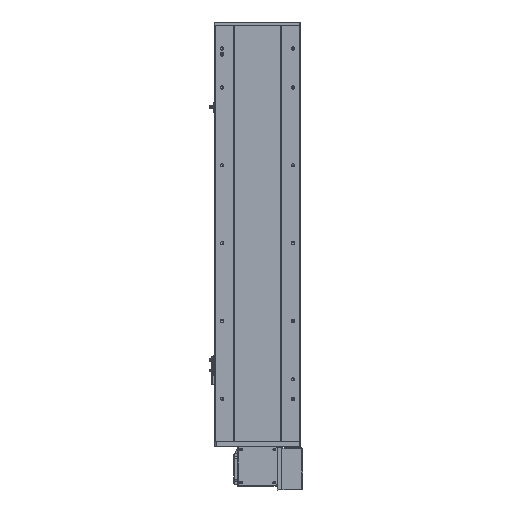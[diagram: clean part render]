
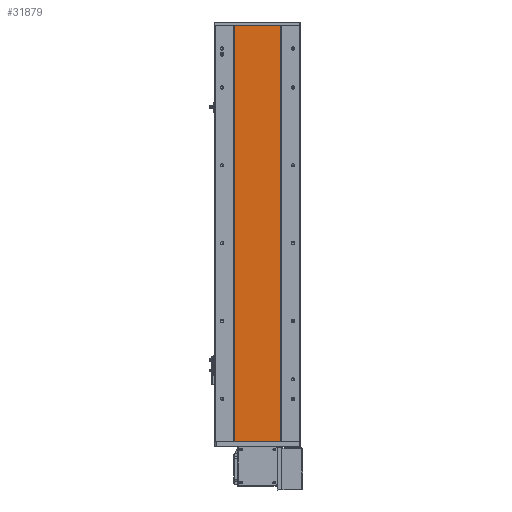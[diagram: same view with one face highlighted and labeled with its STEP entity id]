
A CAD part, front view. The second image highlights one B-rep face of the part: STEP entity #31879.
In plain terms, the highlighted planar face has unit normal (0, -1, 0).
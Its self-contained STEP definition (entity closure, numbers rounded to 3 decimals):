
#1106 = DIRECTION ( 'NONE',  ( 0., 0., -1. ) ) ;
#5656 = EDGE_CURVE ( 'NONE', #23481, #6822, #7207, .T. ) ;
#5662 = ORIENTED_EDGE ( 'NONE', *, *, #32347, .F. ) ;
#6822 = VERTEX_POINT ( 'NONE', #42024 ) ;
#6893 = VECTOR ( 'NONE', #41767, 1000. ) ;
#7207 = LINE ( 'NONE', #48755, #6893 ) ;
#7305 = DIRECTION ( 'NONE',  ( 1., 0., 0. ) ) ;
#10314 = CARTESIAN_POINT ( 'NONE',  ( 0., 155.016, 1069. ) ) ;
#13703 = EDGE_CURVE ( 'NONE', #19620, #42009, #34098, .T. ) ;
#14622 = LINE ( 'NONE', #29873, #14800 ) ;
#14800 = VECTOR ( 'NONE', #22661, 1000. ) ;
#17588 = CARTESIAN_POINT ( 'NONE',  ( 432.408, 155.016, 1069. ) ) ;
#19620 = VERTEX_POINT ( 'NONE', #17588 ) ;
#22661 = DIRECTION ( 'NONE',  ( 0., 0., -1. ) ) ;
#22958 = PLANE ( 'NONE',  #29128 ) ;
#22967 = ORIENTED_EDGE ( 'NONE', *, *, #5656, .T. ) ;
#23381 = EDGE_LOOP ( 'NONE', ( #22967, #5662, #30526, #47892 ) ) ;
#23481 = VERTEX_POINT ( 'NONE', #29756 ) ;
#29128 = AXIS2_PLACEMENT_3D ( 'NONE', #41717, #41476, #37472 ) ;
#29331 = LINE ( 'NONE', #42958, #40750 ) ;
#29756 = CARTESIAN_POINT ( 'NONE',  ( 432.408, 155.016, 0. ) ) ;
#29873 = CARTESIAN_POINT ( 'NONE',  ( 551.58, 155.016, 1069. ) ) ;
#30526 = ORIENTED_EDGE ( 'NONE', *, *, #13703, .F. ) ;
#31879 = ADVANCED_FACE ( 'NONE', ( #42200 ), #22958, .F. ) ;
#32347 = EDGE_CURVE ( 'NONE', #42009, #6822, #14622, .T. ) ;
#34098 = LINE ( 'NONE', #10314, #43199 ) ;
#37472 = DIRECTION ( 'NONE',  ( 0., 0., 1. ) ) ;
#38929 = EDGE_CURVE ( 'NONE', #19620, #23481, #29331, .T. ) ;
#40750 = VECTOR ( 'NONE', #1106, 1000. ) ;
#41476 = DIRECTION ( 'NONE',  ( 0., 1., 0. ) ) ;
#41717 = CARTESIAN_POINT ( 'NONE',  ( 0., 155.016, 1069. ) ) ;
#41767 = DIRECTION ( 'NONE',  ( 1., 0., 0. ) ) ;
#42009 = VERTEX_POINT ( 'NONE', #47779 ) ;
#42024 = CARTESIAN_POINT ( 'NONE',  ( 551.58, 155.016, 0. ) ) ;
#42200 = FACE_OUTER_BOUND ( 'NONE', #23381, .T. ) ;
#42958 = CARTESIAN_POINT ( 'NONE',  ( 432.408, 155.016, 1069. ) ) ;
#43199 = VECTOR ( 'NONE', #7305, 1000. ) ;
#47779 = CARTESIAN_POINT ( 'NONE',  ( 551.58, 155.016, 1069. ) ) ;
#47892 = ORIENTED_EDGE ( 'NONE', *, *, #38929, .T. ) ;
#48755 = CARTESIAN_POINT ( 'NONE',  ( 0., 155.016, 0. ) ) ;
